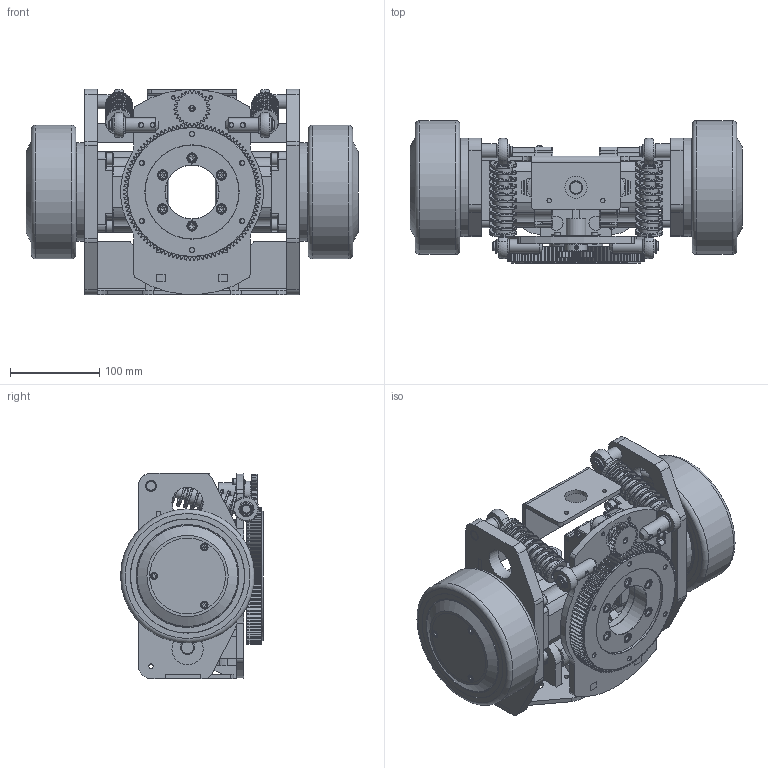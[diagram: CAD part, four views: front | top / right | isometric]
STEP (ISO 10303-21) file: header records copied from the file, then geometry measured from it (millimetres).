
FILE_DESCRIPTION (( 'STEP AP214' ), '1' );
FILE_NAME ('2019-5-6差速驱动总成.STEP', '2019-05-08T14:06:23', ( '' ), ( '' ), 'SwSTEP 2.0', 'SolidWorks 2016', '' );
FILE_SCHEMA (( 'AUTOMOTIVE_DESIGN' ));
Length unit declared in the file: millimetre
Products named in the file (1): 2019-5-6差速驱动总成
Bounding box: 372 x 159.98 x 230 mm (x, y, z)
Surface area: 692956.6 mm2 (no closed solid volume)
Topology: 0 solids, 149 shells, 1830 faces, 6028 edges, 4232 vertices
Faces by surface type: cylinder 860, plane 551, cone 241, torus 119, bspline 47, sphere 12
Full cylindrical faces by diameter (mm): 1.5 x8, 3.242 x8, 4 x2, 4.2 x1, 5 x12, 5.5 x6, 6 x12, 7 x8, 8 x6, 9 x1, 9.2 x3, 10 x6, 10.32 x1, 11 x18, 11.34 x4, 12 x6, 13 x10, 16 x10, 18 x4, 21 x4, 22 x1, 25 x5, 30 x5, 35 x4, 60 x2, 85 x2, 105 x1, 110 x2, 113 x2, 115 x2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
Entity records: 117269 total; most frequent: CARTESIAN_POINT 46455, DIRECTION 10891, ORIENTED_EDGE 8987, EDGE_CURVE 5643, AXIS2_PLACEMENT_3D 4275, VERTEX_POINT 4179, CIRCLE 2491, EDGE_LOOP 2488
